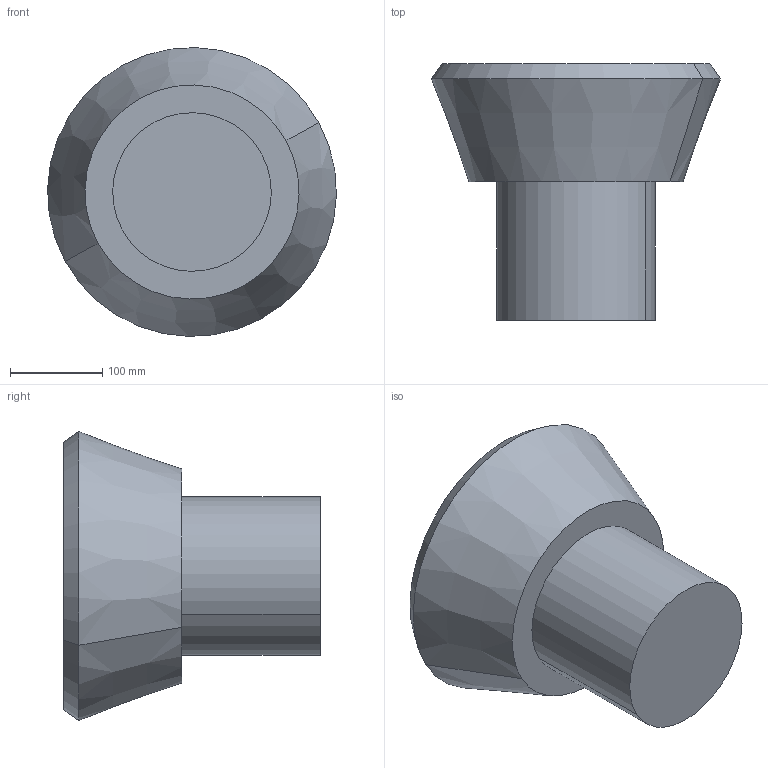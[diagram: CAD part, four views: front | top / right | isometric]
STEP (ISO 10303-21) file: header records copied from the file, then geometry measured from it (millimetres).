
FILE_DESCRIPTION(('CATIA V5 STEP Exchange'),'2;1');
FILE_NAME('C:\_Andres\UNIVERSIDAD\IQS\ASIGNATURAS\DAO\EXF\EXF-15161c\1original\Subirada_Blanco_Ej09-optimiza_v26.stp','2016-03-04T21:55:31+00:00',('none'),('none'),'CATIA Version 5 Release 20 SP 1 (IN-10)','CATIA V5 STEP AP203','none');
FILE_SCHEMA(('CONFIG_CONTROL_DESIGN'));
Length unit declared in the file: millimetre
Products named in the file (1): Subirada_Blanco_Ej09-optimiza_v26
Bounding box: 313.02 x 277.8 x 313.02 mm (x, y, z)
Volume: 11185930 mm3; surface area: 314323.2 mm2
Topology: 1 solids, 2 shells, 13 faces, 22 edges, 14 vertices
Faces by surface type: plane 5, cylinder 4, cone 4
Entity records: 324 total; most frequent: CARTESIAN_POINT 47, ORIENTED_EDGE 44, DIRECTION 42, AXIS2_PLACEMENT_3D 25, EDGE_CURVE 22, CIRCLE 14, EDGE_LOOP 14, VERTEX_POINT 14
